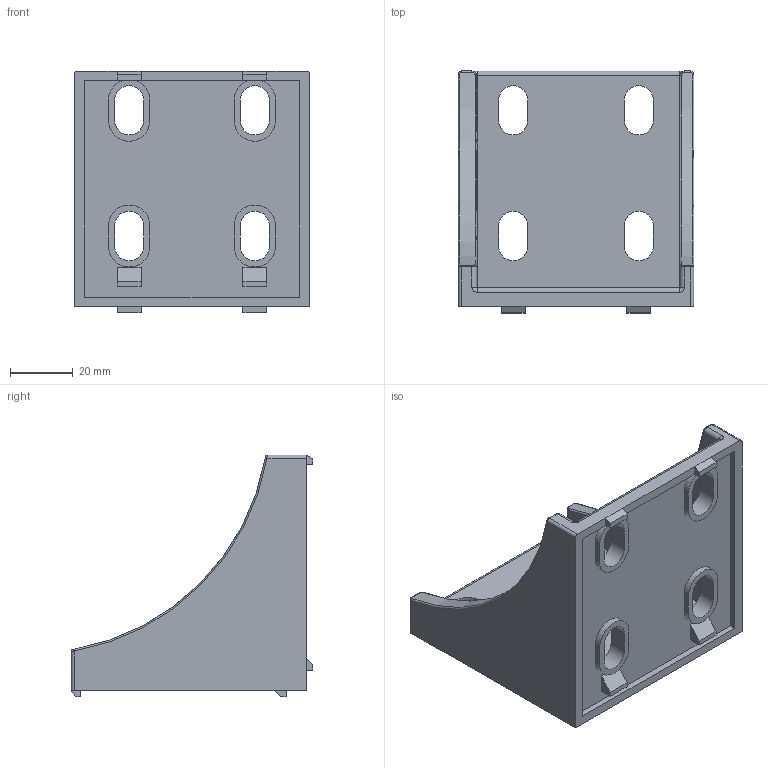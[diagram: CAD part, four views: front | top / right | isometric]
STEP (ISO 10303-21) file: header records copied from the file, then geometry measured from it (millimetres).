
FILE_DESCRIPTION (( 'STEP AP203' ), '1' );
FILE_NAME ('DCB8075-8.STEP', '2020-02-14T05:17:35', ( '' ), ( '' ), 'SwSTEP 2.0', 'SolidWorks 2017', '' );
FILE_SCHEMA (( 'CONFIG_CONTROL_DESIGN' ));
Length unit declared in the file: millimetre
Products named in the file (1): DCB8075-8
Bounding box: 75 x 77 x 77 mm (x, y, z)
Volume: 64652.4 mm3; surface area: 33980.7 mm2
Topology: 1 solids, 1 shells, 183 faces, 483 edges, 308 vertices
Faces by surface type: plane 98, cylinder 67, torus 8, bspline 8, sphere 2
Entity records: 6038 total; most frequent: CARTESIAN_POINT 1353, ORIENTED_EDGE 962, DIRECTION 959, EDGE_CURVE 481, LINE 323, VECTOR 323, AXIS2_PLACEMENT_3D 318, VERTEX_POINT 308
